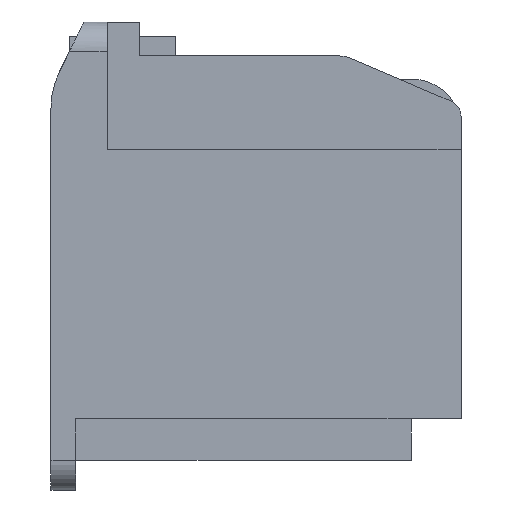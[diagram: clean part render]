
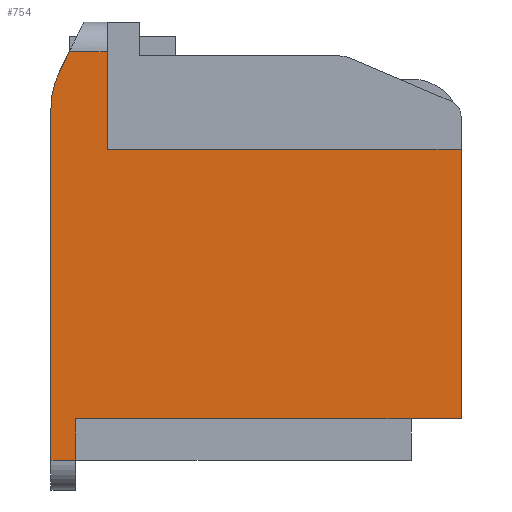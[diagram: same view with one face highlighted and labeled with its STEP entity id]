
A CAD part, front view. The second image highlights one B-rep face of the part: STEP entity #754.
In plain terms, the highlighted planar face has unit normal (0, -1, 0).
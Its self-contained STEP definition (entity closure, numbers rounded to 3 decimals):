
#679=AXIS2_PLACEMENT_3D('Plane Axis2P3D',#676,#677,#678) ;
#683=AXIS2_PLACEMENT_3D('Circle Axis2P3D',#681,#682,$) ;
#186=CARTESIAN_POINT('Vertex',(-23.3,2.1,-9.65)) ;
#189=CARTESIAN_POINT('Line Origine',(-23.3,2.1,-10.9)) ;
#193=CARTESIAN_POINT('Vertex',(-23.3,2.1,-12.15)) ;
#676=CARTESIAN_POINT('Axis2P3D Location',(0.,2.1,6.65)) ;
#681=CARTESIAN_POINT('Axis2P3D Location',(-19.8,2.1,9.133)) ;
#685=CARTESIAN_POINT('Vertex',(-24.8,2.1,9.133)) ;
#687=CARTESIAN_POINT('Vertex',(-24.283,2.1,11.347)) ;
#690=CARTESIAN_POINT('Line Origine',(-24.8,2.1,-1.509)) ;
#694=CARTESIAN_POINT('Vertex',(-24.8,2.1,-12.15)) ;
#697=CARTESIAN_POINT('Line Origine',(-24.05,2.1,-12.15)) ;
#702=CARTESIAN_POINT('Line Origine',(-11.65,2.1,-9.65)) ;
#706=CARTESIAN_POINT('Vertex',(0.,2.1,-9.65)) ;
#709=CARTESIAN_POINT('Line Origine',(0.,2.1,-1.5)) ;
#713=CARTESIAN_POINT('Vertex',(0.,2.1,6.65)) ;
#716=CARTESIAN_POINT('Line Origine',(-10.7,2.1,6.65)) ;
#720=CARTESIAN_POINT('Vertex',(-21.4,2.1,6.65)) ;
#723=CARTESIAN_POINT('Line Origine',(-21.4,2.1,9.6)) ;
#727=CARTESIAN_POINT('Vertex',(-21.4,2.1,12.55)) ;
#730=CARTESIAN_POINT('Line Origine',(-22.544,2.1,12.55)) ;
#734=CARTESIAN_POINT('Vertex',(-23.689,2.1,12.55)) ;
#737=CARTESIAN_POINT('Line Origine',(-23.986,2.1,11.948)) ;
#190=DIRECTION('Vector Direction',(0.,0.,-1.)) ;
#677=DIRECTION('Axis2P3D Direction',(0.,1.,0.)) ;
#678=DIRECTION('Axis2P3D XDirection',(0.,0.,-1.)) ;
#682=DIRECTION('Axis2P3D Direction',(0.,1.,0.)) ;
#691=DIRECTION('Vector Direction',(0.,0.,-1.)) ;
#698=DIRECTION('Vector Direction',(-1.,0.,0.)) ;
#703=DIRECTION('Vector Direction',(-1.,0.,0.)) ;
#710=DIRECTION('Vector Direction',(0.,0.,-1.)) ;
#717=DIRECTION('Vector Direction',(-1.,0.,0.)) ;
#724=DIRECTION('Vector Direction',(0.,0.,-1.)) ;
#731=DIRECTION('Vector Direction',(1.,0.,0.)) ;
#738=DIRECTION('Vector Direction',(0.443,0.,0.897)) ;
#191=VECTOR('Line Direction',#190,1.) ;
#692=VECTOR('Line Direction',#691,1.) ;
#699=VECTOR('Line Direction',#698,1.) ;
#704=VECTOR('Line Direction',#703,1.) ;
#711=VECTOR('Line Direction',#710,1.) ;
#718=VECTOR('Line Direction',#717,1.) ;
#725=VECTOR('Line Direction',#724,1.) ;
#732=VECTOR('Line Direction',#731,1.) ;
#739=VECTOR('Line Direction',#738,1.) ;
#743=ORIENTED_EDGE('',*,*,#689,.F.) ;
#744=ORIENTED_EDGE('',*,*,#696,.T.) ;
#745=ORIENTED_EDGE('',*,*,#701,.F.) ;
#746=ORIENTED_EDGE('',*,*,#195,.F.) ;
#747=ORIENTED_EDGE('',*,*,#708,.F.) ;
#748=ORIENTED_EDGE('',*,*,#715,.F.) ;
#749=ORIENTED_EDGE('',*,*,#722,.T.) ;
#750=ORIENTED_EDGE('',*,*,#729,.F.) ;
#751=ORIENTED_EDGE('',*,*,#736,.F.) ;
#752=ORIENTED_EDGE('',*,*,#741,.F.) ;
#754=ADVANCED_FACE('6098-6415',(#753),#680,.F.) ;
#684=CIRCLE('generated circle',#683,5.) ;
#195=EDGE_CURVE('',#187,#194,#192,.T.) ;
#689=EDGE_CURVE('',#686,#688,#684,.T.) ;
#696=EDGE_CURVE('',#686,#695,#693,.T.) ;
#701=EDGE_CURVE('',#194,#695,#700,.T.) ;
#708=EDGE_CURVE('',#707,#187,#705,.T.) ;
#715=EDGE_CURVE('',#714,#707,#712,.T.) ;
#722=EDGE_CURVE('',#714,#721,#719,.T.) ;
#729=EDGE_CURVE('',#728,#721,#726,.T.) ;
#736=EDGE_CURVE('',#735,#728,#733,.T.) ;
#741=EDGE_CURVE('',#688,#735,#740,.T.) ;
#742=EDGE_LOOP('',(#743,#744,#745,#746,#747,#748,#749,#750,#751,#752)) ;
#753=FACE_OUTER_BOUND('',#742,.T.) ;
#192=LINE('Line',#189,#191) ;
#693=LINE('Line',#690,#692) ;
#700=LINE('Line',#697,#699) ;
#705=LINE('Line',#702,#704) ;
#712=LINE('Line',#709,#711) ;
#719=LINE('Line',#716,#718) ;
#726=LINE('Line',#723,#725) ;
#733=LINE('Line',#730,#732) ;
#740=LINE('Line',#737,#739) ;
#680=PLANE('',#679) ;
#187=VERTEX_POINT('',#186) ;
#194=VERTEX_POINT('',#193) ;
#686=VERTEX_POINT('',#685) ;
#688=VERTEX_POINT('',#687) ;
#695=VERTEX_POINT('',#694) ;
#707=VERTEX_POINT('',#706) ;
#714=VERTEX_POINT('',#713) ;
#721=VERTEX_POINT('',#720) ;
#728=VERTEX_POINT('',#727) ;
#735=VERTEX_POINT('',#734) ;
